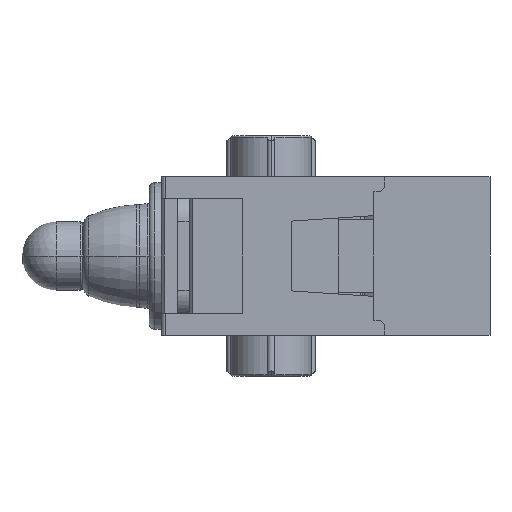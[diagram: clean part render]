
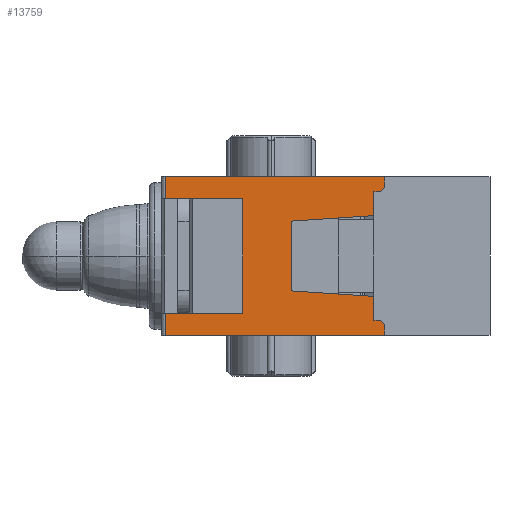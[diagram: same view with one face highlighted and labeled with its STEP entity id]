
A CAD part, left-side view. The second image highlights one B-rep face of the part: STEP entity #13759.
In plain terms, the highlighted planar face has unit normal (-1, 0, 0).
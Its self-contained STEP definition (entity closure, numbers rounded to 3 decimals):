
#491 = DIRECTION ( 'NONE',  ( 0., -0.707, 0.707 ) ) ;
#492 = VECTOR ( 'NONE', #491, 1000. ) ;
#493 = CARTESIAN_POINT ( 'NONE',  ( -6.5, 0.2, 2.502 ) ) ;
#494 = LINE ( 'NONE', #493, #492 ) ;
#496 = CARTESIAN_POINT ( 'NONE',  ( -6.5, 0.2, 2.502 ) ) ;
#616 = DIRECTION ( 'NONE',  ( 0., 0., 1. ) ) ;
#617 = VECTOR ( 'NONE', #616, 1000. ) ;
#618 = CARTESIAN_POINT ( 'NONE',  ( -6.5, 0.2, 2.502 ) ) ;
#619 = LINE ( 'NONE', #618, #617 ) ;
#621 = CARTESIAN_POINT ( 'NONE',  ( -6.5, 0.2, 2.9 ) ) ;
#766 = CARTESIAN_POINT ( 'NONE',  ( -6.5, 0.6, 2.352 ) ) ;
#767 = DIRECTION ( 'NONE',  ( 0., -1., 0. ) ) ;
#768 = VECTOR ( 'NONE', #767, 1000. ) ;
#769 = CARTESIAN_POINT ( 'NONE',  ( -6.5, 7.77, 2.353 ) ) ;
#770 = LINE ( 'NONE', #769, #768 ) ;
#771 = CARTESIAN_POINT ( 'NONE',  ( -6.5, 0.35, 2.352 ) ) ;
#1084 = CARTESIAN_POINT ( 'NONE',  ( -6.5, 0.2, -2.9 ) ) ;
#1085 = DIRECTION ( 'NONE',  ( 0., 0., 1. ) ) ;
#1086 = VECTOR ( 'NONE', #1085, 1000. ) ;
#1087 = CARTESIAN_POINT ( 'NONE',  ( -6.5, 0.2, -2.502 ) ) ;
#1088 = LINE ( 'NONE', #1087, #1086 ) ;
#1089 = CARTESIAN_POINT ( 'NONE',  ( -6.5, 0.2, -2.502 ) ) ;
#5013 = CARTESIAN_POINT ( 'NONE',  ( -6.5, 8.205, -2.9 ) ) ;
#5014 = DIRECTION ( 'NONE',  ( 0., -1., 0. ) ) ;
#5015 = VECTOR ( 'NONE', #5014, 1000. ) ;
#5016 = CARTESIAN_POINT ( 'NONE',  ( -6.5, 8.355, -2.9 ) ) ;
#5017 = LINE ( 'NONE', #5016, #5015 ) ;
#6820 = DIRECTION ( 'NONE',  ( 0., 0., -1. ) ) ;
#6821 = VECTOR ( 'NONE', #6820, 1000. ) ;
#6822 = CARTESIAN_POINT ( 'NONE',  ( -6.5, 8.205, 2.9 ) ) ;
#6823 = LINE ( 'NONE', #6822, #6821 ) ;
#6824 = CARTESIAN_POINT ( 'NONE',  ( -6.5, 8.205, -2.095 ) ) ;
#6825 = DIRECTION ( 'NONE',  ( 0., -1., 0. ) ) ;
#6826 = VECTOR ( 'NONE', #6825, 1000. ) ;
#6827 = CARTESIAN_POINT ( 'NONE',  ( -6.5, 8.355, -2.095 ) ) ;
#6828 = LINE ( 'NONE', #6827, #6826 ) ;
#6829 = CARTESIAN_POINT ( 'NONE',  ( -6.5, 5.39, -2.095 ) ) ;
#6830 = DIRECTION ( 'NONE',  ( 0., 0., -1. ) ) ;
#6831 = VECTOR ( 'NONE', #6830, 1000. ) ;
#6832 = CARTESIAN_POINT ( 'NONE',  ( -6.5, 5.39, -2.095 ) ) ;
#6833 = LINE ( 'NONE', #6832, #6831 ) ;
#6834 = CARTESIAN_POINT ( 'NONE',  ( -6.5, 5.39, 2.095 ) ) ;
#6835 = DIRECTION ( 'NONE',  ( 0., 1., 0. ) ) ;
#6836 = VECTOR ( 'NONE', #6835, 1000. ) ;
#6837 = CARTESIAN_POINT ( 'NONE',  ( -6.5, 8.355, 2.095 ) ) ;
#6838 = LINE ( 'NONE', #6837, #6836 ) ;
#6839 = CARTESIAN_POINT ( 'NONE',  ( -6.5, 3.6, -1.275 ) ) ;
#6896 = DIRECTION ( 'NONE',  ( 0., -0.998, 0.067 ) ) ;
#6897 = VECTOR ( 'NONE', #6896, 1000. ) ;
#6898 = CARTESIAN_POINT ( 'NONE',  ( -6.5, 3.6, 1.275 ) ) ;
#6899 = LINE ( 'NONE', #6898, #6897 ) ;
#6901 = CARTESIAN_POINT ( 'NONE',  ( -6.5, 3.6, 1.275 ) ) ;
#6902 = DIRECTION ( 'NONE',  ( 0., 0., 1. ) ) ;
#6903 = VECTOR ( 'NONE', #6902, 1000. ) ;
#6904 = CARTESIAN_POINT ( 'NONE',  ( -6.5, 3.6, -2.352 ) ) ;
#6905 = LINE ( 'NONE', #6904, #6903 ) ;
#6906 = DIRECTION ( 'NONE',  ( 0., 0.998, 0.067 ) ) ;
#6907 = VECTOR ( 'NONE', #6906, 1000. ) ;
#6908 = CARTESIAN_POINT ( 'NONE',  ( -6.5, 0.6, -1.475 ) ) ;
#6909 = LINE ( 'NONE', #6908, #6907 ) ;
#7083 = CARTESIAN_POINT ( 'NONE',  ( -6.5, 8.355, 2.9 ) ) ;
#7084 = AXIS2_PLACEMENT_3D ( 'NONE', #7083, #7221, #7220 ) ;
#7085 = PLANE ( 'NONE',  #7084 ) ;
#7100 = FACE_OUTER_BOUND ( 'NONE', #13760, .T. ) ;
#7215 = CARTESIAN_POINT ( 'NONE',  ( -6.5, 8.205, 2.095 ) ) ;
#7216 = DIRECTION ( 'NONE',  ( 0., 0., -1. ) ) ;
#7217 = VECTOR ( 'NONE', #7216, 1000. ) ;
#7218 = CARTESIAN_POINT ( 'NONE',  ( -6.5, 8.205, 2.9 ) ) ;
#7219 = LINE ( 'NONE', #7218, #7217 ) ;
#7220 = DIRECTION ( 'NONE',  ( 0., 0., -1. ) ) ;
#7221 = DIRECTION ( 'NONE',  ( 1., 0., 0. ) ) ;
#10799 = DIRECTION ( 'NONE',  ( 0., 0.707, 0.707 ) ) ;
#10800 = VECTOR ( 'NONE', #10799, 1000. ) ;
#10801 = CARTESIAN_POINT ( 'NONE',  ( -6.5, 0.2, -2.502 ) ) ;
#10803 = LINE ( 'NONE', #10801, #10800 ) ;
#11397 = CARTESIAN_POINT ( 'NONE',  ( -6.5, 0.35, -2.352 ) ) ;
#11398 = DIRECTION ( 'NONE',  ( 0., 1., 0. ) ) ;
#11399 = VECTOR ( 'NONE', #11398, 1000. ) ;
#11400 = CARTESIAN_POINT ( 'NONE',  ( -6.5, 7.77, -2.353 ) ) ;
#11429 = CARTESIAN_POINT ( 'NONE',  ( -6.5, 0.6, -2.352 ) ) ;
#11430 = LINE ( 'NONE', #11400, #11399 ) ;
#11431 = EDGE_CURVE ( 'NONE', #15025, #11592, #17288, .T. ) ;
#11592 = VERTEX_POINT ( 'NONE', #16084 ) ;
#11759 = VERTEX_POINT ( 'NONE', #16519 ) ;
#11789 = VERTEX_POINT ( 'NONE', #16612 ) ;
#11794 = EDGE_CURVE ( 'NONE', #11789, #15421, #16606, .T. ) ;
#11806 = EDGE_CURVE ( 'NONE', #11759, #15381, #16548, .T. ) ;
#13127 = EDGE_CURVE ( 'NONE', #13128, #15468, #5017, .T. ) ;
#13128 = VERTEX_POINT ( 'NONE', #5013 ) ;
#13703 = EDGE_CURVE ( 'NONE', #11592, #13725, #6909, .T. ) ;
#13704 = ORIENTED_EDGE ( 'NONE', *, *, #13705, .T. ) ;
#13705 = EDGE_CURVE ( 'NONE', #13725, #13706, #6905, .T. ) ;
#13706 = VERTEX_POINT ( 'NONE', #6901 ) ;
#13707 = ORIENTED_EDGE ( 'NONE', *, *, #13708, .T. ) ;
#13708 = EDGE_CURVE ( 'NONE', #13706, #11789, #6899, .T. ) ;
#13709 = ORIENTED_EDGE ( 'NONE', *, *, #11794, .T. ) ;
#13710 = ORIENTED_EDGE ( 'NONE', *, *, #15420, .T. ) ;
#13711 = ORIENTED_EDGE ( 'NONE', *, *, #15369, .T. ) ;
#13712 = ORIENTED_EDGE ( 'NONE', *, *, #15383, .T. ) ;
#13721 = ORIENTED_EDGE ( 'NONE', *, *, #14970, .T. ) ;
#13722 = ORIENTED_EDGE ( 'NONE', *, *, #15027, .T. ) ;
#13723 = ORIENTED_EDGE ( 'NONE', *, *, #11431, .T. ) ;
#13724 = ORIENTED_EDGE ( 'NONE', *, *, #13703, .T. ) ;
#13725 = VERTEX_POINT ( 'NONE', #6839 ) ;
#13726 = ORIENTED_EDGE ( 'NONE', *, *, #13727, .F. ) ;
#13727 = EDGE_CURVE ( 'NONE', #13728, #13764, #6838, .T. ) ;
#13728 = VERTEX_POINT ( 'NONE', #6834 ) ;
#13729 = ORIENTED_EDGE ( 'NONE', *, *, #13730, .T. ) ;
#13730 = EDGE_CURVE ( 'NONE', #13728, #13731, #6833, .T. ) ;
#13731 = VERTEX_POINT ( 'NONE', #6829 ) ;
#13732 = ORIENTED_EDGE ( 'NONE', *, *, #13733, .F. ) ;
#13733 = EDGE_CURVE ( 'NONE', #13734, #13731, #6828, .T. ) ;
#13734 = VERTEX_POINT ( 'NONE', #6824 ) ;
#13735 = ORIENTED_EDGE ( 'NONE', *, *, #13736, .T. ) ;
#13736 = EDGE_CURVE ( 'NONE', #13734, #13128, #6823, .T. ) ;
#13737 = ORIENTED_EDGE ( 'NONE', *, *, #13127, .T. ) ;
#13738 = ORIENTED_EDGE ( 'NONE', *, *, #15467, .T. ) ;
#13759 = ADVANCED_FACE ( 'NONE', ( #7100 ), #7085, .F. ) ;
#13760 = EDGE_LOOP ( 'NONE', ( #13761, #13762, #13726, #13729, #13732, #13735, #13737, #13738, #13721, #13722, #13723, #13724, #13704, #13707, #13709, #13710, #13711, #13712 ) ) ;
#13761 = ORIENTED_EDGE ( 'NONE', *, *, #11806, .F. ) ;
#13762 = ORIENTED_EDGE ( 'NONE', *, *, #13763, .T. ) ;
#13763 = EDGE_CURVE ( 'NONE', #11759, #13764, #7219, .T. ) ;
#13764 = VERTEX_POINT ( 'NONE', #7215 ) ;
#14970 = EDGE_CURVE ( 'NONE', #15465, #15028, #10803, .T. ) ;
#15025 = VERTEX_POINT ( 'NONE', #11429 ) ;
#15027 = EDGE_CURVE ( 'NONE', #15028, #15025, #11430, .T. ) ;
#15028 = VERTEX_POINT ( 'NONE', #11397 ) ;
#15367 = VERTEX_POINT ( 'NONE', #496 ) ;
#15369 = EDGE_CURVE ( 'NONE', #15418, #15367, #494, .T. ) ;
#15381 = VERTEX_POINT ( 'NONE', #621 ) ;
#15383 = EDGE_CURVE ( 'NONE', #15367, #15381, #619, .T. ) ;
#15418 = VERTEX_POINT ( 'NONE', #771 ) ;
#15420 = EDGE_CURVE ( 'NONE', #15421, #15418, #770, .T. ) ;
#15421 = VERTEX_POINT ( 'NONE', #766 ) ;
#15465 = VERTEX_POINT ( 'NONE', #1089 ) ;
#15467 = EDGE_CURVE ( 'NONE', #15468, #15465, #1088, .T. ) ;
#15468 = VERTEX_POINT ( 'NONE', #1084 ) ;
#16084 = CARTESIAN_POINT ( 'NONE',  ( -6.5, 0.6, -1.475 ) ) ;
#16519 = CARTESIAN_POINT ( 'NONE',  ( -6.5, 8.205, 2.9 ) ) ;
#16545 = DIRECTION ( 'NONE',  ( 0., -1., 0. ) ) ;
#16546 = VECTOR ( 'NONE', #16545, 1000. ) ;
#16547 = CARTESIAN_POINT ( 'NONE',  ( -6.5, 8.355, 2.9 ) ) ;
#16548 = LINE ( 'NONE', #16547, #16546 ) ;
#16603 = DIRECTION ( 'NONE',  ( 0., 0., 1. ) ) ;
#16604 = VECTOR ( 'NONE', #16603, 1000. ) ;
#16605 = CARTESIAN_POINT ( 'NONE',  ( -6.5, 0.6, 1.475 ) ) ;
#16606 = LINE ( 'NONE', #16605, #16604 ) ;
#16612 = CARTESIAN_POINT ( 'NONE',  ( -6.5, 0.6, 1.475 ) ) ;
#17285 = DIRECTION ( 'NONE',  ( 0., 0., 1. ) ) ;
#17286 = VECTOR ( 'NONE', #17285, 1000. ) ;
#17287 = CARTESIAN_POINT ( 'NONE',  ( -6.5, 0.6, -2.352 ) ) ;
#17288 = LINE ( 'NONE', #17287, #17286 ) ;
